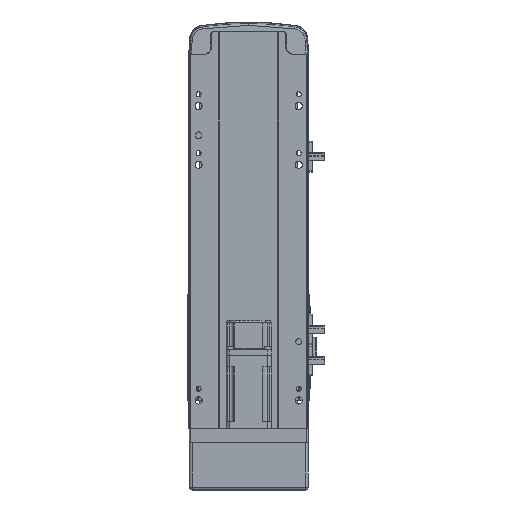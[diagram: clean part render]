
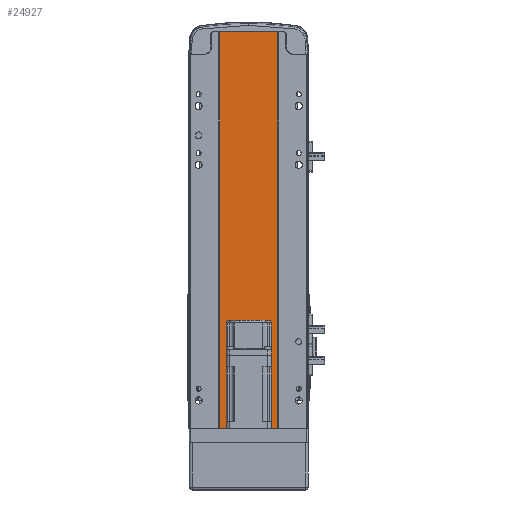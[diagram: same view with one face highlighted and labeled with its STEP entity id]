
A CAD part, front view. The second image highlights one B-rep face of the part: STEP entity #24927.
In plain terms, the highlighted planar face has unit normal (0, -1, 0).
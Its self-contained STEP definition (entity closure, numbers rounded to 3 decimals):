
#1272 = DIRECTION ( 'NONE',  ( 1., 0., 0. ) ) ;
#2104 = CARTESIAN_POINT ( 'NONE',  ( 24.5, 2., 337. ) ) ;
#2566 = VECTOR ( 'NONE', #6492, 1000. ) ;
#3203 = EDGE_CURVE ( 'NONE', #23116, #48029, #4198, .T. ) ;
#4198 = LINE ( 'NONE', #19364, #26279 ) ;
#4681 = LINE ( 'NONE', #16756, #50088 ) ;
#6492 = DIRECTION ( 'NONE',  ( 1., 0., 0. ) ) ;
#6599 = LINE ( 'NONE', #35009, #38925 ) ;
#7304 = ORIENTED_EDGE ( 'NONE', *, *, #32920, .T. ) ;
#8619 = DIRECTION ( 'NONE',  ( 0., 0., -1. ) ) ;
#14584 = ORIENTED_EDGE ( 'NONE', *, *, #55433, .F. ) ;
#16756 = CARTESIAN_POINT ( 'NONE',  ( 24.5, 2., 337. ) ) ;
#19364 = CARTESIAN_POINT ( 'NONE',  ( -24.5, 2., 337. ) ) ;
#22647 = LINE ( 'NONE', #28620, #2566 ) ;
#23116 = VERTEX_POINT ( 'NONE', #56452 ) ;
#24927 = ADVANCED_FACE ( 'NONE', ( #36263 ), #46819, .F. ) ;
#26279 = VECTOR ( 'NONE', #1272, 1000. ) ;
#28620 = CARTESIAN_POINT ( 'NONE',  ( 0., 2., 0. ) ) ;
#29172 = CARTESIAN_POINT ( 'NONE',  ( 0., 2., 337. ) ) ;
#30711 = VERTEX_POINT ( 'NONE', #31609 ) ;
#31234 = EDGE_CURVE ( 'NONE', #30711, #48086, #22647, .T. ) ;
#31609 = CARTESIAN_POINT ( 'NONE',  ( -24.5, 2., 0. ) ) ;
#32920 = EDGE_CURVE ( 'NONE', #23116, #30711, #6599, .T. ) ;
#35009 = CARTESIAN_POINT ( 'NONE',  ( -24.5, 2., 337. ) ) ;
#36263 = FACE_OUTER_BOUND ( 'NONE', #55546, .T. ) ;
#37818 = DIRECTION ( 'NONE',  ( 0., 1., 0. ) ) ;
#38087 = CARTESIAN_POINT ( 'NONE',  ( 24.5, 2., 0. ) ) ;
#38925 = VECTOR ( 'NONE', #8619, 1000. ) ;
#39999 = AXIS2_PLACEMENT_3D ( 'NONE', #29172, #37818, #46440 ) ;
#45028 = ORIENTED_EDGE ( 'NONE', *, *, #3203, .F. ) ;
#46440 = DIRECTION ( 'NONE',  ( 0., 0., 1. ) ) ;
#46819 = PLANE ( 'NONE',  #39999 ) ;
#47489 = DIRECTION ( 'NONE',  ( 0., 0., -1. ) ) ;
#48029 = VERTEX_POINT ( 'NONE', #2104 ) ;
#48086 = VERTEX_POINT ( 'NONE', #38087 ) ;
#50088 = VECTOR ( 'NONE', #47489, 1000. ) ;
#51785 = ORIENTED_EDGE ( 'NONE', *, *, #31234, .T. ) ;
#55433 = EDGE_CURVE ( 'NONE', #48029, #48086, #4681, .T. ) ;
#55546 = EDGE_LOOP ( 'NONE', ( #51785, #14584, #45028, #7304 ) ) ;
#56452 = CARTESIAN_POINT ( 'NONE',  ( -24.5, 2., 337. ) ) ;
